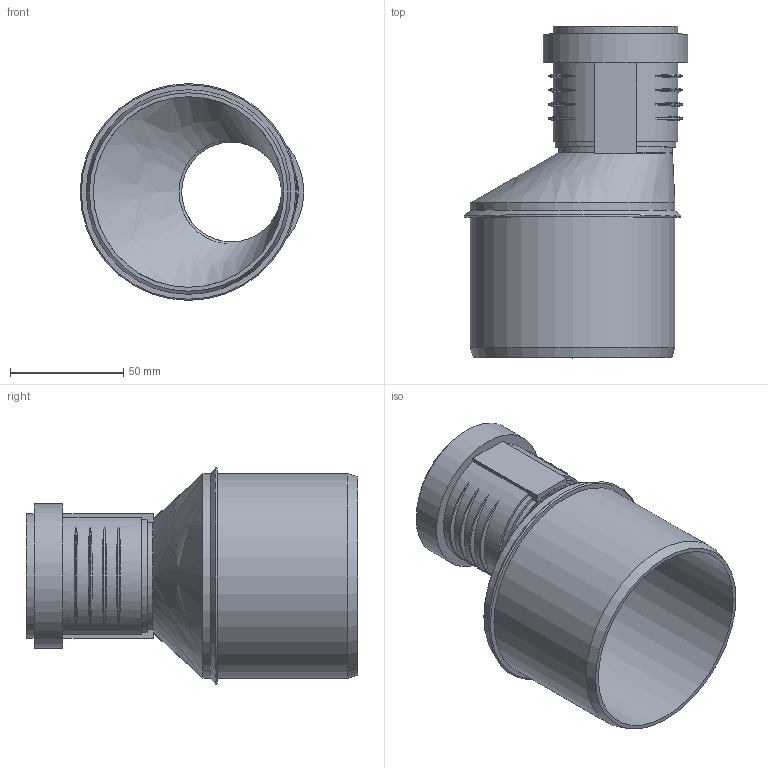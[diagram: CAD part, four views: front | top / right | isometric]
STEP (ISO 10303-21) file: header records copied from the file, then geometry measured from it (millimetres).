
FILE_DESCRIPTION(/* description */ (''),/* implementation_level */ '2;1');
FILE_NAME(/* name */ 'Z:\Geberit\Export\NewStep\390472.stp',/* time_stamp */ '2014-04-02T08:13:37+02:00',/* author */ ('ML'),/* organization */ (''),/* preprocessor_version */ 'ST-DEVELOPER v15.2',/* originating_system */ 'Autodesk Inventor 2014',/* authorisation */ '');
FILE_SCHEMA (('AUTOMOTIVE_DESIGN { 1 0 10303 214 3 1 1 }'));
Length unit declared in the file: millimetre
Products named in the file (3): 861305; 861401; 390472
Bounding box: 98.54 x 146.19 x 95.52 mm (x, y, z)
Volume: 98682.9 mm3; surface area: 78153.1 mm2
Topology: 2 solids, 2 shells, 68 faces, 162 edges, 112 vertices
Faces by surface type: torus 25, plane 20, cylinder 18, cone 3, bspline 2
Full cylindrical faces by diameter (mm): 43.95 x1, 46.15 x1, 50.15 x2, 51 x2, 55 x1, 59.7 x1, 63.7 x1, 84 x1, 90.2 x2
Entity records: 2630 total; most frequent: CARTESIAN_POINT 1021, DIRECTION 296, ORIENTED_EDGE 290, EDGE_CURVE 145, AXIS2_PLACEMENT_3D 130, VERTEX_POINT 111, EDGE_LOOP 102, STYLED_ITEM 68
